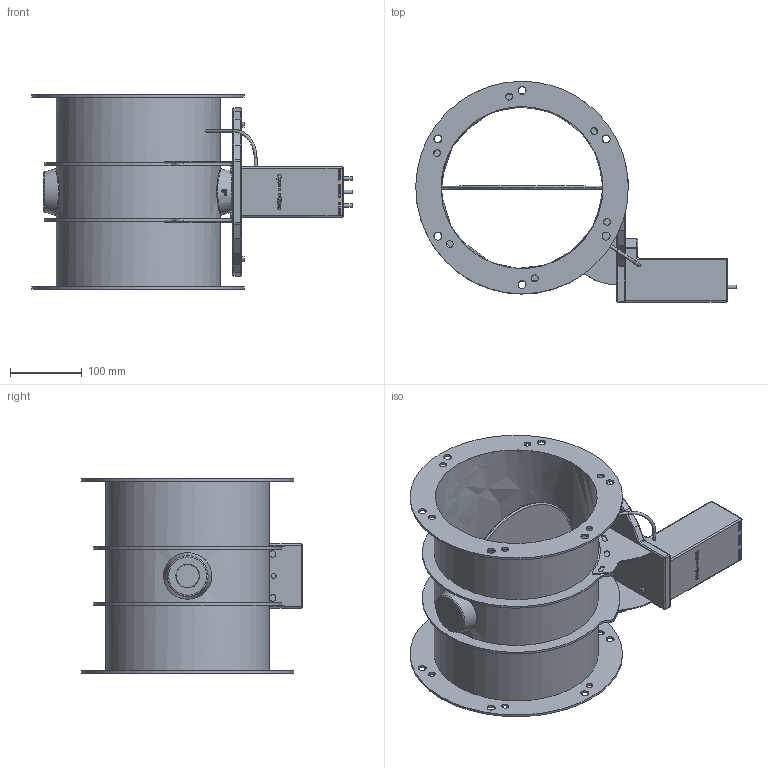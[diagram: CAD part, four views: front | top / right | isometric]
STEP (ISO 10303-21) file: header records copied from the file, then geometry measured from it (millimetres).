
FILE_DESCRIPTION( ('This file contains a STEP AP42 implementation' ,'as created by ZW3D STEP Interface translator.') ,'2;1' );
FILE_NAME( '3D Model-09_2M0 Butterfly Body with drive.stp' ,'211115. 64319', (''), ('ZWCAD Software Co.'), 'Version 1.0', 'ZW3D to STEP translator', '' );
FILE_SCHEMA(('CONFIG_CONTROL_DESIGN'));
Length unit declared in the file: millimetre
Products named in the file (4): 0; 0_Maketa 3D 9_; Futro na ložisko 9"; Hadièka
Assembly tree (3 placements, depth 2):
  0
  0_Maketa 3D 9_
    Futro na ložisko 9"  x2
    Hadièka
Bounding box: 445.28 x 307.38 x 270 mm (x, y, z)
Volume: 1775128.9 mm3; surface area: 793327.7 mm2
Topology: 7 solids, 10 shells, 819 faces, 2015 edges, 1290 vertices
Faces by surface type: bspline 819
Entity records: 26671 total; most frequent: CARTESIAN_POINT 15166, ORIENTED_EDGE 3756, EDGE_CURVE 1878, B_SPLINE_CURVE_WITH_KNOTS 1460, VERTEX_POINT 1203, EDGE_LOOP 905, FACE_OUTER_BOUND 765, ADVANCED_FACE 765
